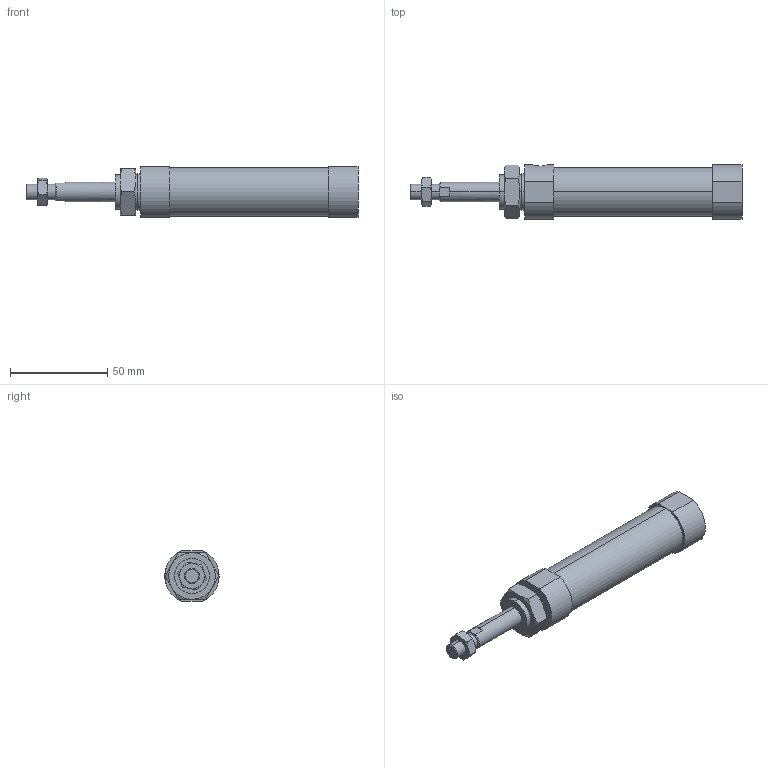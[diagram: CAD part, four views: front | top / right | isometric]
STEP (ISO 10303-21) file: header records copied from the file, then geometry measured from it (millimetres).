
FILE_DESCRIPTION (( 'STEP AP203' ), '1' );
FILE_NAME ('JGND0-20-25-N.STEP', '2016-08-04T02:04:26', ( '' ), ( '' ), 'SwSTEP 2.0', 'SolidWorks 2014', '' );
FILE_SCHEMA (( 'CONFIG_CONTROL_DESIGN' ));
Length unit declared in the file: millimetre
Products named in the file (4): J#0-20-25(P); JGND0-20-25-N
Assembly tree (3 placements, depth 2):
  JGND0-20-25-N
    J#0-20-25(P)
    (unnamed)
    (unnamed)
Bounding box: 171 x 28 x 26 mm (x, y, z)
Volume: 66862.6 mm3; surface area: 15071.8 mm2
Topology: 3 solids, 3 shells, 81 faces, 176 edges, 108 vertices
Faces by surface type: plane 33, torus 24, cylinder 20, cone 4
Entity records: 2900 total; most frequent: CARTESIAN_POINT 761, DIRECTION 366, ORIENTED_EDGE 352, EDGE_CURVE 176, AXIS2_PLACEMENT_3D 157, VERTEX_POINT 108, EDGE_LOOP 92, ADVANCED_FACE 81
